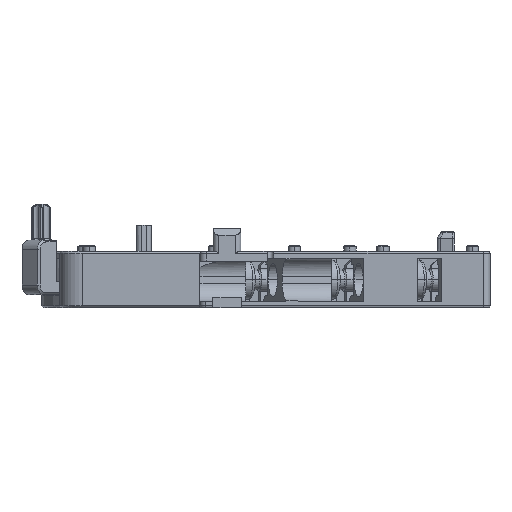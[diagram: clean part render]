
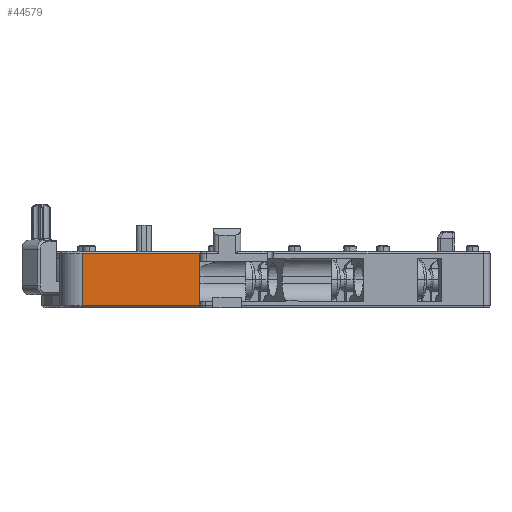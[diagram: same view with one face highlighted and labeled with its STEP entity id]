
A CAD part, left-side view. The second image highlights one B-rep face of the part: STEP entity #44579.
In plain terms, the highlighted planar face has unit normal (-1, 0, 0).
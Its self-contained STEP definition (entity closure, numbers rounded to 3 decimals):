
#4671=DIRECTION('',(0.,-1.,0.));
#4672=VECTOR('',#4671,18.);
#4673=CARTESIAN_POINT('',(-30.,11.,4.1));
#4674=LINE('',#4673,#4672);
#4675=DIRECTION('',(0.,0.,-1.));
#4676=VECTOR('',#4675,4.1);
#4677=CARTESIAN_POINT('',(-30.,-7.,4.1));
#4678=LINE('',#4677,#4676);
#4679=DIRECTION('',(0.,0.,-1.));
#4680=VECTOR('',#4679,4.);
#4681=CARTESIAN_POINT('',(-30.,-7.,0.));
#4682=LINE('',#4681,#4680);
#4683=DIRECTION('',(0.,1.,0.));
#4684=VECTOR('',#4683,18.);
#4685=CARTESIAN_POINT('',(-30.,-7.,-4.));
#4686=LINE('',#4685,#4684);
#4687=DIRECTION('',(0.,0.,1.));
#4688=VECTOR('',#4687,8.1);
#4689=CARTESIAN_POINT('',(-30.,11.,-4.));
#4690=LINE('',#4689,#4688);
#32211=CARTESIAN_POINT('',(-30.,-7.,-4.));
#32212=CARTESIAN_POINT('',(-30.,11.,-4.));
#32213=VERTEX_POINT('',#32211);
#32214=VERTEX_POINT('',#32212);
#32224=CARTESIAN_POINT('',(-30.,-7.,4.1));
#32226=VERTEX_POINT('',#32224);
#32227=CARTESIAN_POINT('',(-30.,11.,4.1));
#32228=VERTEX_POINT('',#32227);
#33041=CARTESIAN_POINT('',(-30.,-7.,0.));
#33042=VERTEX_POINT('',#33041);
#44565=CARTESIAN_POINT('',(-30.,-7.,0.));
#44566=DIRECTION('',(1.,0.,0.));
#44567=DIRECTION('',(0.,1.,0.));
#44568=AXIS2_PLACEMENT_3D('',#44565,#44566,#44567);
#44569=PLANE('',#44568);
#44570=ORIENTED_EDGE('',*,*,#44475,.T.);
#44571=ORIENTED_EDGE('',*,*,#44493,.T.);
#44572=ORIENTED_EDGE('',*,*,#41695,.T.);
#44574=ORIENTED_EDGE('',*,*,#44573,.T.);
#44576=ORIENTED_EDGE('',*,*,#44575,.T.);
#44577=EDGE_LOOP('',(#44570,#44571,#44572,#44574,#44576));
#44578=FACE_OUTER_BOUND('',#44577,.F.);
#44579=ADVANCED_FACE('',(#44578),#44569,.F.);
#41695=EDGE_CURVE('',#33042,#32213,#4682,.T.);
#44475=EDGE_CURVE('',#32228,#32226,#4674,.T.);
#44493=EDGE_CURVE('',#32226,#33042,#4678,.T.);
#44573=EDGE_CURVE('',#32213,#32214,#4686,.T.);
#44575=EDGE_CURVE('',#32214,#32228,#4690,.T.);
